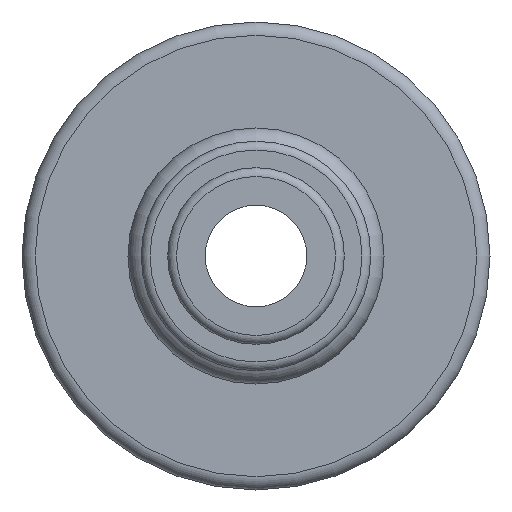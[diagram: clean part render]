
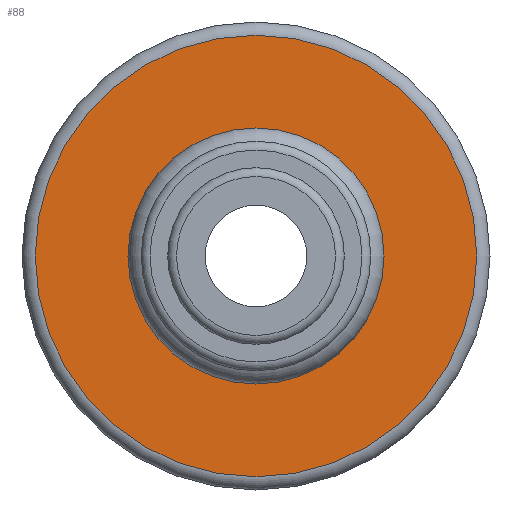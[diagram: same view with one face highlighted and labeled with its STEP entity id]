
A CAD part, left-side view. The second image highlights one B-rep face of the part: STEP entity #88.
In plain terms, the highlighted planar face has unit normal (-1, 0, 0).
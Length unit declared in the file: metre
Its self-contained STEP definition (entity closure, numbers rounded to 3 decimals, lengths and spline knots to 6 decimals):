
#88 = ADVANCED_FACE( '', ( #191, #192 ), #193, .T. );
#191 = FACE_OUTER_BOUND( '', #420, .T. );
#192 = FACE_BOUND( '', #421, .T. );
#193 = PLANE( '', #422 );
#420 = EDGE_LOOP( '', ( #696 ) );
#421 = EDGE_LOOP( '', ( #697 ) );
#422 = AXIS2_PLACEMENT_3D( '', #698, #699, #700 );
#696 = ORIENTED_EDGE( '', *, *, #1080, .T. );
#697 = ORIENTED_EDGE( '', *, *, #1081, .F. );
#698 = CARTESIAN_POINT( '', ( -0.0148, 0., 0.005 ) );
#699 = DIRECTION( '', ( -1., 0., 0. ) );
#700 = DIRECTION( '', ( 0., 0., 1. ) );
#1080 = EDGE_CURVE( '', #1204, #1204, #1205, .T. );
#1081 = EDGE_CURVE( '', #1206, #1206, #1207, .T. );
#1204 = VERTEX_POINT( '', #1408 );
#1205 = CIRCLE( '', #1409, 0.005 );
#1206 = VERTEX_POINT( '', #1410 );
#1207 = CIRCLE( '', #1411, 0.0026 );
#1408 = CARTESIAN_POINT( '', ( -0.0148, 0., 0.005 ) );
#1409 = AXIS2_PLACEMENT_3D( '', #1622, #1623, #1624 );
#1410 = CARTESIAN_POINT( '', ( -0.0148, 0., 0.0026 ) );
#1411 = AXIS2_PLACEMENT_3D( '', #1625, #1626, #1627 );
#1622 = CARTESIAN_POINT( '', ( -0.0148, 0., 0. ) );
#1623 = DIRECTION( '', ( -1., 0., 0. ) );
#1624 = DIRECTION( '', ( 0., 0., 1. ) );
#1625 = CARTESIAN_POINT( '', ( -0.0148, 0., 0. ) );
#1626 = DIRECTION( '', ( -1., 0., 0. ) );
#1627 = DIRECTION( '', ( 0., 0., 1. ) );
